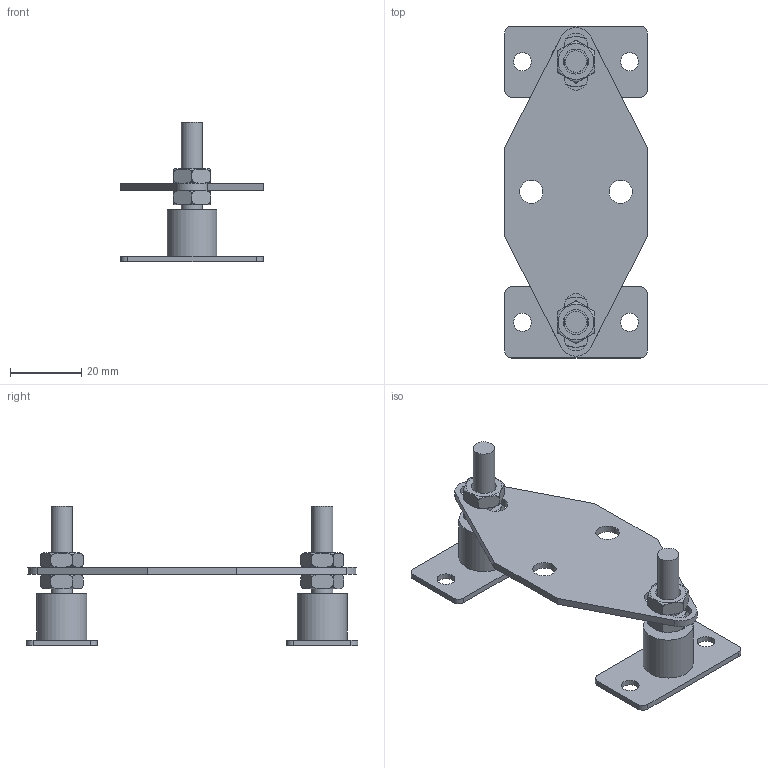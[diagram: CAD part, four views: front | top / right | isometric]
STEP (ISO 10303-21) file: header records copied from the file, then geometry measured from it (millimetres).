
FILE_DESCRIPTION(/* description */ (''),/* implementation_level */ '2;1');
FILE_NAME(/* name */ 'C:\Users\Owner\Documents\硯聰\Inv材料庫-3D新型錄-2019整理\07.共用配件\GM-磁鐵\GM-1.stp',/* time_stamp */ '2019-03-18T10:14:13+08:00',/* author */ ('Owner'),/* organization */ (''),/* preprocessor_version */ 'ST-DEVELOPER v16.1',/* originating_system */ 'Autodesk Inventor 2016',/* authorisation */ '');
FILE_SCHEMA (('AUTOMOTIVE_DESIGN { 1 0 10303 214 3 1 1 }'));
Length unit declared in the file: millimetre
Products named in the file (6): GM-1; 001; 002; 003; 004; GM-1_1
Assembly tree (9 placements, depth 2):
  GM-1_1
    GM-1
    001  x2
    002  x2
    003  x2
    004  x2
Bounding box: 40 x 93 x 39.1 mm (x, y, z)
Volume: 13228.6 mm3; surface area: 12721.5 mm2
Topology: 9 solids, 9 shells, 98 faces, 226 edges, 148 vertices
Faces by surface type: plane 62, cylinder 28, torus 8
Full cylindrical faces by diameter (mm): 5 x4, 6 x2, 6.5 x2, 7 x4, 14 x2
Entity records: 2312 total; most frequent: CARTESIAN_POINT 810, DIRECTION 292, ORIENTED_EDGE 256, EDGE_CURVE 128, AXIS2_PLACEMENT_3D 114, VERTEX_POINT 92, EDGE_LOOP 88, LINE 64
